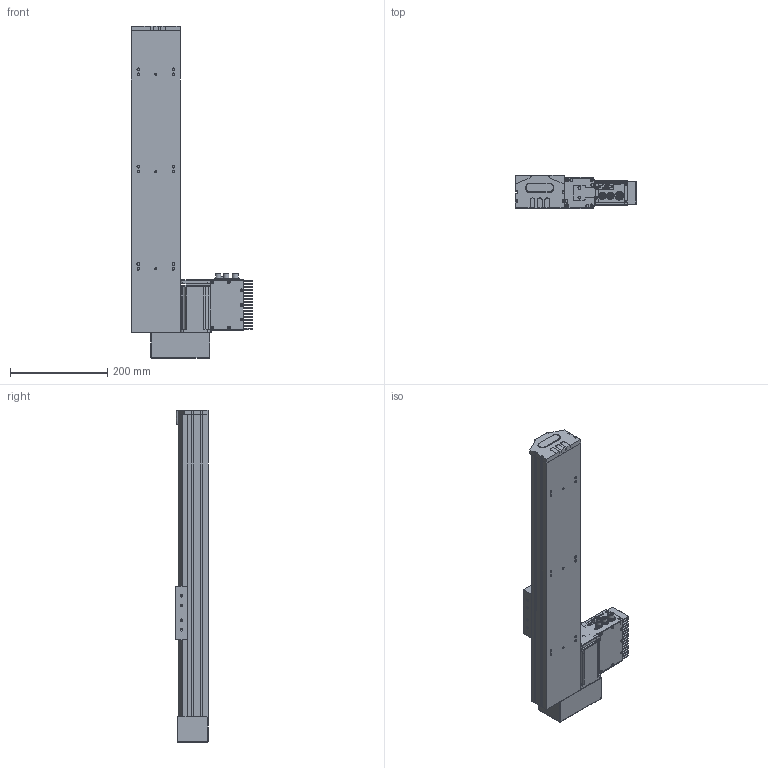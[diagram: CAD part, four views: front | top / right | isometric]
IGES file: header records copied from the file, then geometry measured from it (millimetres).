
Start section: SolidWorks IGES file using analytic representation for surfaces
Global section: file name: C:\Documents and Settings\1EDPI\Mes documents\yanize\S 10 TSH BR\S 10 TSH BR S400.IGS; native system: SolidWorks 2010; preprocessor: SolidWorks 2010; author: 1EDPI; date: 120904.142423; units: millimetre
Bounding box: 248.66 x 67.24 x 682 mm (x, y, z)
Surface area: 612810.8 mm2 (no closed solid volume)
Topology: 0 solids, 0 shells, 1961 faces, 26116 edges, 26084 vertices
Faces by surface type: revolution 1037, bspline 924
